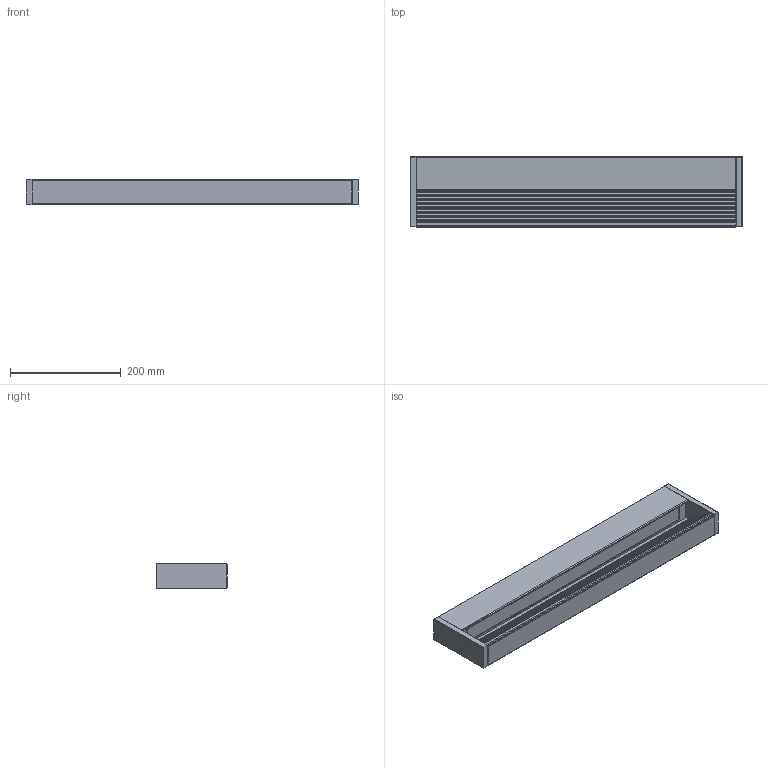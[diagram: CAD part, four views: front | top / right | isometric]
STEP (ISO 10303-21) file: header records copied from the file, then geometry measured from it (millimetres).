
FILE_DESCRIPTION(/* description */ (''),/* implementation_level */ '2;1');
FILE_NAME(/* name */ 'C:\Users\FrancoSartori\Documents\FARO\01_En Proceso\000_GRADA\03_Publicación\70911.stp',/* time_stamp */ '2021-07-27T14:39:16+02:00',/* author */ ('FrancoSartori'),/* organization */ (''),/* preprocessor_version */ 'ST-DEVELOPER v18.1',/* originating_system */ 'AutoCAD Mechanical',/* authorisation */ '');
FILE_SCHEMA (('AUTOMOTIVE_DESIGN { 1 0 10303 214 3 1 1 }'));
Length unit declared in the file: millimetre
Products named in the file (2): Product; 70910_70911_GRADA - GRADA-450629-Export
Assembly tree (1 placements, depth 2):
  Product
    70910_70911_GRADA - GRADA-450629-Export
Bounding box: 600 x 128 x 46.01 mm (x, y, z)
Volume: 2458374.3 mm3; surface area: 374658 mm2
Topology: 5 solids, 6 shells, 205 faces, 578 edges, 384 vertices
Faces by surface type: plane 173, cylinder 32
Entity records: 6654 total; most frequent: CARTESIAN_POINT 1202, ORIENTED_EDGE 1148, DIRECTION 1050, EDGE_CURVE 578, LINE 514, VECTOR 514, VERTEX_POINT 384, AXIS2_PLACEMENT_3D 268
